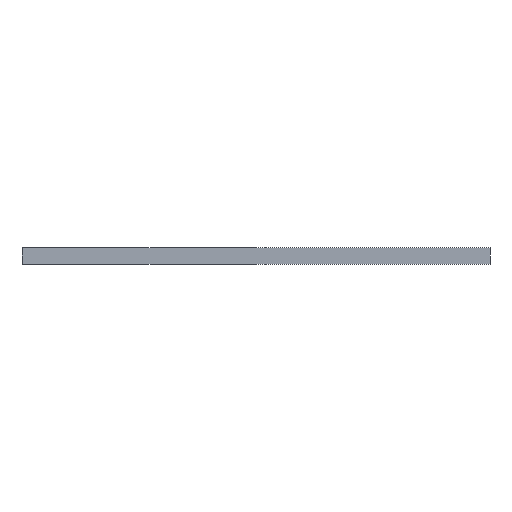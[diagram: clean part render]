
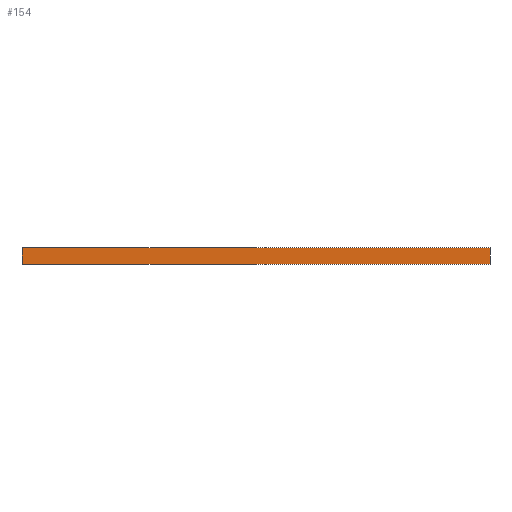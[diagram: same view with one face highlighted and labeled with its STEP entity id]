
A CAD part, front view. The second image highlights one B-rep face of the part: STEP entity #154.
In plain terms, the highlighted planar face has unit normal (0, -1, 0).
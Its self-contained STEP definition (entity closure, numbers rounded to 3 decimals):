
#40 = VERTEX_POINT('',#41);
#41 = CARTESIAN_POINT('',(67.6,18.336,4.994));
#49 = EDGE_CURVE('',#50,#40,#52,.T.);
#50 = VERTEX_POINT('',#51);
#51 = CARTESIAN_POINT('',(67.6,18.336,4.93));
#52 = LINE('',#53,#54);
#53 = CARTESIAN_POINT('',(67.6,18.336,4.93));
#54 = VECTOR('',#55,1.);
#55 = DIRECTION('',(0.,0.,1.));
#80 = EDGE_CURVE('',#40,#81,#83,.T.);
#81 = VERTEX_POINT('',#82);
#82 = CARTESIAN_POINT('',(69.464,18.336,4.994));
#83 = LINE('',#84,#85);
#84 = CARTESIAN_POINT('',(67.6,18.336,4.994));
#85 = VECTOR('',#86,1.);
#86 = DIRECTION('',(1.,0.,0.));
#134 = EDGE_CURVE('',#50,#135,#137,.T.);
#135 = VERTEX_POINT('',#136);
#136 = CARTESIAN_POINT('',(69.464,18.336,4.93));
#137 = LINE('',#138,#139);
#138 = CARTESIAN_POINT('',(67.6,18.336,4.93));
#139 = VECTOR('',#140,1.);
#140 = DIRECTION('',(1.,0.,0.));
#154 = ADVANCED_FACE('',(#155),#166,.F.);
#155 = FACE_BOUND('',#156,.F.);
#156 = EDGE_LOOP('',(#157,#158,#159,#160));
#157 = ORIENTED_EDGE('',*,*,#134,.F.);
#158 = ORIENTED_EDGE('',*,*,#49,.T.);
#159 = ORIENTED_EDGE('',*,*,#80,.T.);
#160 = ORIENTED_EDGE('',*,*,#161,.F.);
#161 = EDGE_CURVE('',#135,#81,#162,.T.);
#162 = LINE('',#163,#164);
#163 = CARTESIAN_POINT('',(69.464,18.336,4.93));
#164 = VECTOR('',#165,1.);
#165 = DIRECTION('',(0.,0.,1.));
#166 = PLANE('',#167);
#167 = AXIS2_PLACEMENT_3D('',#168,#169,#170);
#168 = CARTESIAN_POINT('',(67.6,18.336,4.93));
#169 = DIRECTION('',(0.,1.,0.));
#170 = DIRECTION('',(0.,0.,1.));
